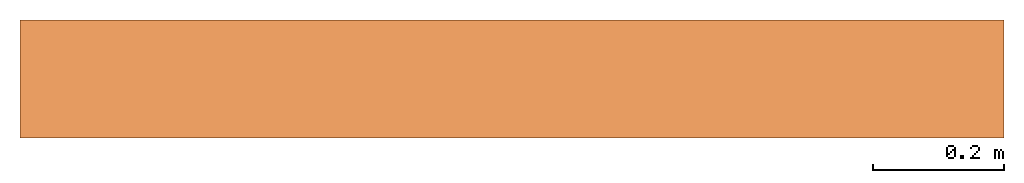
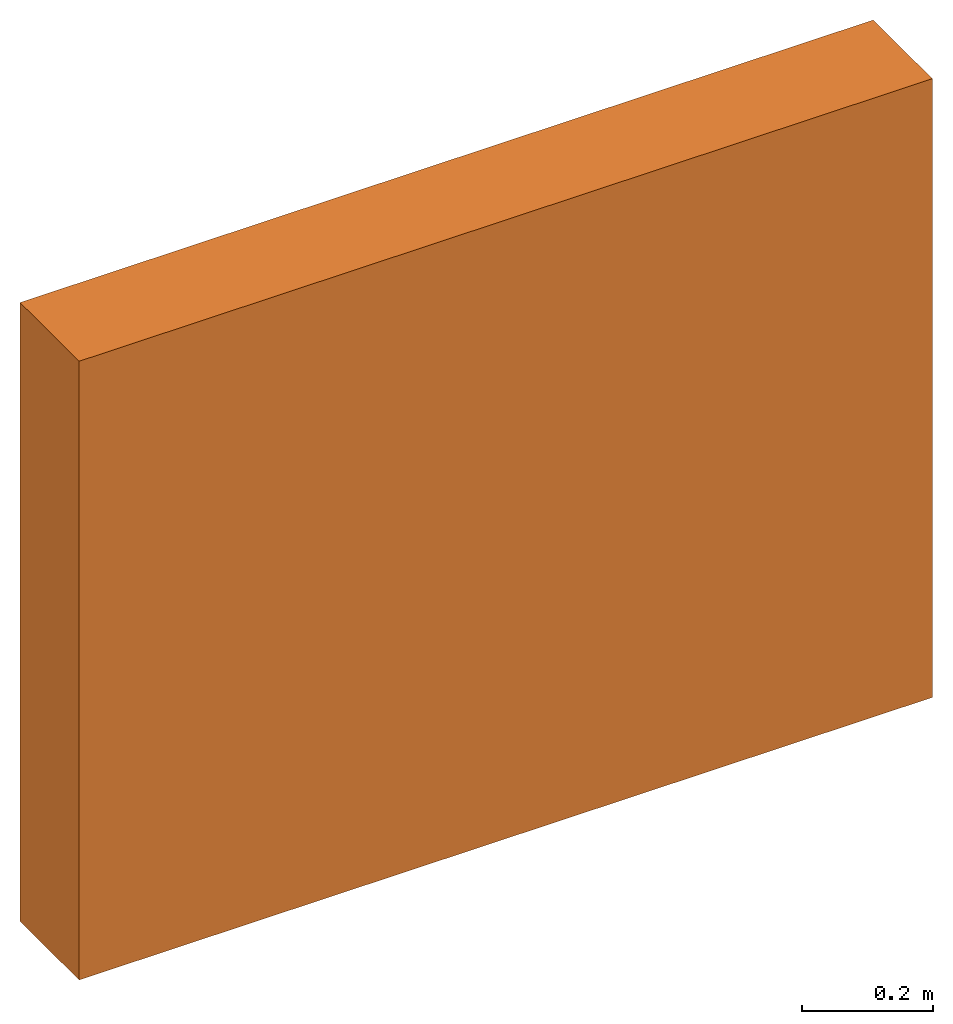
# One storey: 1 proxy.
"""IFC2X3 building model written with IfcOpenShell, lengths in centimetres."""

from ifc_helpers import new_model, entity, si_unit, converted_unit, derived_unit, direction, frame, frame_2d, origin, place, context, subcontext, project, spatial, rectangle, extrude, source, transform, mapped, material, type_object, type_shapes, element, save


model = new_model("IFC2X3")

# Units and contexts
model_context = context("Model", 3, precision=0.001, world=origin(), true_north=direction((6.12303176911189e-17, 1.0)))
body_context = subcontext(model_context, "Body", "Model", "MODEL_VIEW")
ifc_project = project(units=[si_unit("LENGTHUNIT", "METRE", prefix="CENTI"), si_unit("AREAUNIT", "SQUARE_METRE"), si_unit("VOLUMEUNIT", "CUBIC_METRE"), converted_unit("PLANEANGLEUNIT", "DEGREE", entity("IfcRatioMeasure", 0.0174532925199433), si_unit("PLANEANGLEUNIT", "RADIAN"), dimensions=[0, 0, 0, 0, 0, 0, 0]), si_unit("MASSUNIT", "GRAM", prefix="KILO"), derived_unit("MASSDENSITYUNIT", [(si_unit("MASSUNIT", "GRAM", prefix="KILO"), 1), (si_unit("LENGTHUNIT", "METRE"), -3)]), si_unit("TIMEUNIT", "SECOND"), si_unit("FREQUENCYUNIT", "HERTZ"), si_unit("THERMODYNAMICTEMPERATUREUNIT", "DEGREE_CELSIUS"), derived_unit("THERMALTRANSMITTANCEUNIT", [(si_unit("MASSUNIT", "GRAM", prefix="KILO"), 1), (si_unit("THERMODYNAMICTEMPERATUREUNIT", "KELVIN"), -1), (si_unit("TIMEUNIT", "SECOND"), -3)]), derived_unit("VOLUMETRICFLOWRATEUNIT", [(si_unit("LENGTHUNIT", "METRE"), 3), (si_unit("TIMEUNIT", "SECOND"), -1)]), si_unit("ELECTRICCURRENTUNIT", "AMPERE"), si_unit("ELECTRICVOLTAGEUNIT", "VOLT"), si_unit("POWERUNIT", "WATT"), si_unit("FORCEUNIT", "NEWTON"), si_unit("ILLUMINANCEUNIT", "LUX"), si_unit("LUMINOUSFLUXUNIT", "LUMEN"), si_unit("LUMINOUSINTENSITYUNIT", "CANDELA"), derived_unit("USERDEFINED", [(si_unit("MASSUNIT", "GRAM", prefix="KILO"), -1), (si_unit("LENGTHUNIT", "METRE"), -2), (si_unit("TIMEUNIT", "SECOND"), 3), (si_unit("LUMINOUSFLUXUNIT", "LUMEN"), 1)]), derived_unit("LINEARVELOCITYUNIT", [(si_unit("LENGTHUNIT", "METRE"), 1), (si_unit("TIMEUNIT", "SECOND"), -1)]), si_unit("PRESSUREUNIT", "PASCAL"), derived_unit("USERDEFINED", [(si_unit("LENGTHUNIT", "METRE"), -2), (si_unit("MASSUNIT", "GRAM", prefix="KILO"), 1), (si_unit("TIMEUNIT", "SECOND"), -2)])], contexts=[model_context])

# Site, building, storey
site_placement = place(None, origin())
site = spatial("IfcSite", under=ifc_project, at=site_placement, Name="Default", CompositionType="ELEMENT")
building_placement = place(site_placement, origin())
building = spatial("IfcBuilding", under=site, at=building_placement, Name="CAGE 03", CompositionType="ELEMENT")
storey_placement = place(building_placement, frame((0.0, 0.0, -31.0)))
storey = spatial("IfcBuildingStorey", under=building, at=storey_placement, Name="+3.69", CompositionType="ELEMENT", Elevation=-31.0000000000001)

# Proxy
ifc_material = material(Name="BBGO_Résa")
building_element_proxy_type = type_object("IfcBuildingElementProxyType", Name="Réservation", PredefinedType="NOTDEFINED", material=ifc_material)
shared_shape = source(origin(), body_context, "Body", "SweptSolid", [
    extrude(rectangle(XDim=17.9999999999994, YDim=150.0, at=frame_2d((8.65973959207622e-13, 4.33431068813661e-13), x_axis=(1.0, 0.0))), frame((7694.36582014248, 5079.6606660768, 47.0), z_axis=(0.0, 0.0, 1.0), x_axis=(0.0, 1.0, 0.0)), (0.0, 0.0, 1.0), 115.0),
])
type_shapes(building_element_proxy_type, [shared_shape])
proxy_placement = place(storey_placement, frame((0.0, 0.0, 31.0)))
element("IfcBuildingElementProxy", 1, at=proxy_placement, inside=storey, type_object=building_element_proxy_type, material=ifc_material, Name="BBGO-Résa rect et circ:Réservation", ObjectType="Réservation", context=body_context, shape_type="MappedRepresentation", body=[
    mapped(shared_shape, transform((0.0, 0.0, 0.0), scale=1.0)),
])

save(model, "model.ifc")
